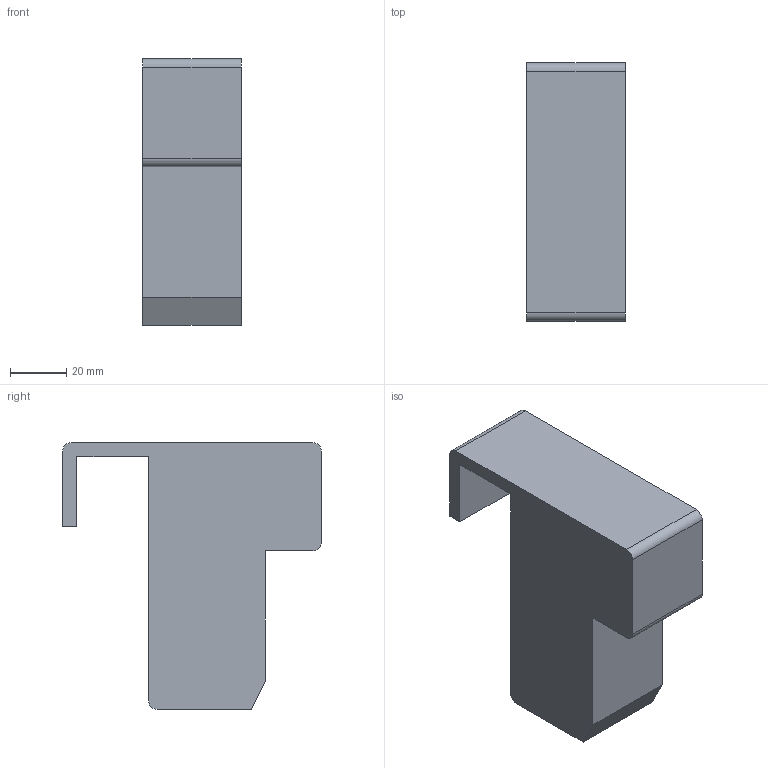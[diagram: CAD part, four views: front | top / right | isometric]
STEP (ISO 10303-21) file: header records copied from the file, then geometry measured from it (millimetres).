
FILE_DESCRIPTION(/* description */ (''),/* implementation_level */ '2;1');
FILE_NAME(/* name */ 'Endstop (L) v1.step',/* time_stamp */ '2024-09-08T15:24:44+02:00',/* author */ (''),/* organization */ (''),/* preprocessor_version */ 'ST-DEVELOPER v20',/* originating_system */ 'Autodesk Translation Framework v13.14.0.145',/* authorisation */ '');
FILE_SCHEMA (('AUTOMOTIVE_DESIGN { 1 0 10303 214 3 1 1 }'));
Length unit declared in the file: millimetre
Products named in the file (1): Chasis
Bounding box: 35 x 92.1 x 95 mm (x, y, z)
Volume: 173443.6 mm3; surface area: 24511.4 mm2
Topology: 1 solids, 1 shells, 19 faces, 48 edges, 32 vertices
Faces by surface type: plane 14, cylinder 5
Full cylindrical faces by diameter (mm): 5 x1
Entity records: 612 total; most frequent: CARTESIAN_POINT 100, DIRECTION 98, ORIENTED_EDGE 96, EDGE_CURVE 48, LINE 38, VECTOR 38, VERTEX_POINT 32, AXIS2_PLACEMENT_3D 30
